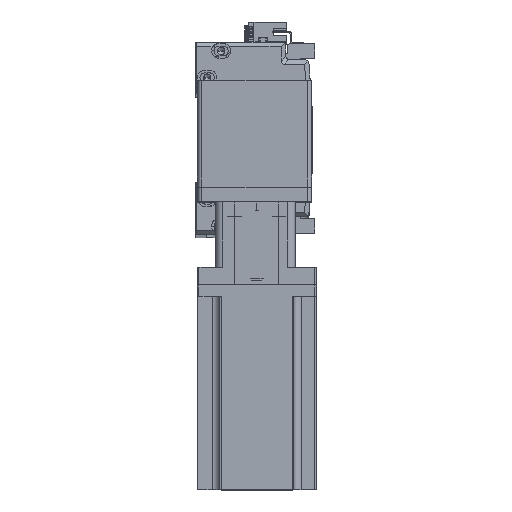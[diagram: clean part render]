
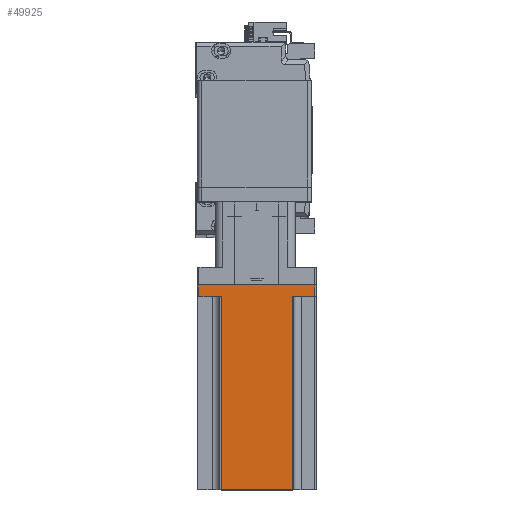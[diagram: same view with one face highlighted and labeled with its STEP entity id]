
A CAD part, top view. The second image highlights one B-rep face of the part: STEP entity #49925.
In plain terms, the highlighted planar face has unit normal (0, 0, 1) as drawn and (0, 1, 0) by its records, which use the part's own axes.
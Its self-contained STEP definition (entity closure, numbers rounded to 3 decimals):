
#401 = CARTESIAN_POINT ( 'NONE',  ( 40., 40., 138.3 ) ) ;
#477 = EDGE_CURVE ( 'NONE', #59901, #55600, #2918, .T. ) ;
#632 = DIRECTION ( 'NONE',  ( 0., 0., -1. ) ) ;
#1362 = VECTOR ( 'NONE', #30421, 1000. ) ;
#1805 = CARTESIAN_POINT ( 'NONE',  ( 25., 40., 8. ) ) ;
#2918 = LINE ( 'NONE', #401, #1362 ) ;
#3231 = ORIENTED_EDGE ( 'NONE', *, *, #3919, .F. ) ;
#3384 = VECTOR ( 'NONE', #632, 1000. ) ;
#3919 = EDGE_CURVE ( 'NONE', #64743, #50327, #61401, .T. ) ;
#5583 = CARTESIAN_POINT ( 'NONE',  ( -25., 40., 8. ) ) ;
#6057 = CARTESIAN_POINT ( 'NONE',  ( 24., 40., 138.3 ) ) ;
#7864 = ORIENTED_EDGE ( 'NONE', *, *, #35048, .T. ) ;
#9586 = LINE ( 'NONE', #34243, #34721 ) ;
#11170 = DIRECTION ( 'NONE',  ( 0., -1., 0. ) ) ;
#13495 = VERTEX_POINT ( 'NONE', #17735 ) ;
#15717 = EDGE_CURVE ( 'NONE', #50388, #55600, #55989, .T. ) ;
#16716 = CARTESIAN_POINT ( 'NONE',  ( -24., 40., 138.3 ) ) ;
#17080 = VERTEX_POINT ( 'NONE', #44633 ) ;
#17735 = CARTESIAN_POINT ( 'NONE',  ( 39., 40., 0. ) ) ;
#21343 = VECTOR ( 'NONE', #36878, 1000. ) ;
#22837 = VERTEX_POINT ( 'NONE', #32504 ) ;
#22926 = LINE ( 'NONE', #6057, #48050 ) ;
#26053 = ORIENTED_EDGE ( 'NONE', *, *, #46764, .T. ) ;
#28125 = AXIS2_PLACEMENT_3D ( 'NONE', #41247, #11170, #46281 ) ;
#29242 = VECTOR ( 'NONE', #51841, 1000. ) ;
#30421 = DIRECTION ( 'NONE',  ( -1., 0., 0. ) ) ;
#30934 = PLANE ( 'NONE',  #28125 ) ;
#31018 = DIRECTION ( 'NONE',  ( 1., 0., 0. ) ) ;
#31073 = DIRECTION ( 'NONE',  ( 0., 0., -1. ) ) ;
#32504 = CARTESIAN_POINT ( 'NONE',  ( -39., 40., 0. ) ) ;
#32988 = ORIENTED_EDGE ( 'NONE', *, *, #48108, .T. ) ;
#34243 = CARTESIAN_POINT ( 'NONE',  ( 40., 40., 0. ) ) ;
#34721 = VECTOR ( 'NONE', #44363, 1000. ) ;
#35048 = EDGE_CURVE ( 'NONE', #59901, #50327, #22926, .T. ) ;
#35131 = CARTESIAN_POINT ( 'NONE',  ( -39., 40., 138.3 ) ) ;
#35140 = CARTESIAN_POINT ( 'NONE',  ( 24., 40., 138.3 ) ) ;
#35733 = CARTESIAN_POINT ( 'NONE',  ( 39., 40., 138.3 ) ) ;
#36145 = CARTESIAN_POINT ( 'NONE',  ( 24., 40., 8. ) ) ;
#36878 = DIRECTION ( 'NONE',  ( -1., 0., 0. ) ) ;
#39516 = ORIENTED_EDGE ( 'NONE', *, *, #477, .F. ) ;
#40674 = CARTESIAN_POINT ( 'NONE',  ( -24., 40., 138.3 ) ) ;
#41247 = CARTESIAN_POINT ( 'NONE',  ( 40., 40., 138.3 ) ) ;
#44255 = LINE ( 'NONE', #5583, #56061 ) ;
#44363 = DIRECTION ( 'NONE',  ( -1., 0., 0. ) ) ;
#44633 = CARTESIAN_POINT ( 'NONE',  ( -39., 40., 8. ) ) ;
#45223 = DIRECTION ( 'NONE',  ( 0., 0., 1. ) ) ;
#46085 = EDGE_LOOP ( 'NONE', ( #32988, #64942, #39516, #7864, #3231, #49213, #53680, #26053 ) ) ;
#46281 = DIRECTION ( 'NONE',  ( 1., 0., 0. ) ) ;
#46676 = EDGE_CURVE ( 'NONE', #13495, #22837, #9586, .T. ) ;
#46764 = EDGE_CURVE ( 'NONE', #22837, #17080, #63733, .T. ) ;
#48050 = VECTOR ( 'NONE', #31073, 1000. ) ;
#48108 = EDGE_CURVE ( 'NONE', #17080, #50388, #44255, .T. ) ;
#49213 = ORIENTED_EDGE ( 'NONE', *, *, #63537, .T. ) ;
#49925 = ADVANCED_FACE ( 'NONE', ( #50102 ), #30934, .F. ) ;
#50102 = FACE_OUTER_BOUND ( 'NONE', #46085, .T. ) ;
#50327 = VERTEX_POINT ( 'NONE', #36145 ) ;
#50388 = VERTEX_POINT ( 'NONE', #52144 ) ;
#50449 = VECTOR ( 'NONE', #45223, 1000. ) ;
#51841 = DIRECTION ( 'NONE',  ( 0., 0., 1. ) ) ;
#52144 = CARTESIAN_POINT ( 'NONE',  ( -24., 40., 8. ) ) ;
#53680 = ORIENTED_EDGE ( 'NONE', *, *, #46676, .T. ) ;
#55195 = LINE ( 'NONE', #35733, #3384 ) ;
#55600 = VERTEX_POINT ( 'NONE', #40674 ) ;
#55989 = LINE ( 'NONE', #16716, #29242 ) ;
#56061 = VECTOR ( 'NONE', #31018, 1000. ) ;
#58464 = CARTESIAN_POINT ( 'NONE',  ( 39., 40., 8. ) ) ;
#59901 = VERTEX_POINT ( 'NONE', #35140 ) ;
#61401 = LINE ( 'NONE', #1805, #21343 ) ;
#63537 = EDGE_CURVE ( 'NONE', #64743, #13495, #55195, .T. ) ;
#63733 = LINE ( 'NONE', #35131, #50449 ) ;
#64743 = VERTEX_POINT ( 'NONE', #58464 ) ;
#64942 = ORIENTED_EDGE ( 'NONE', *, *, #15717, .T. ) ;
